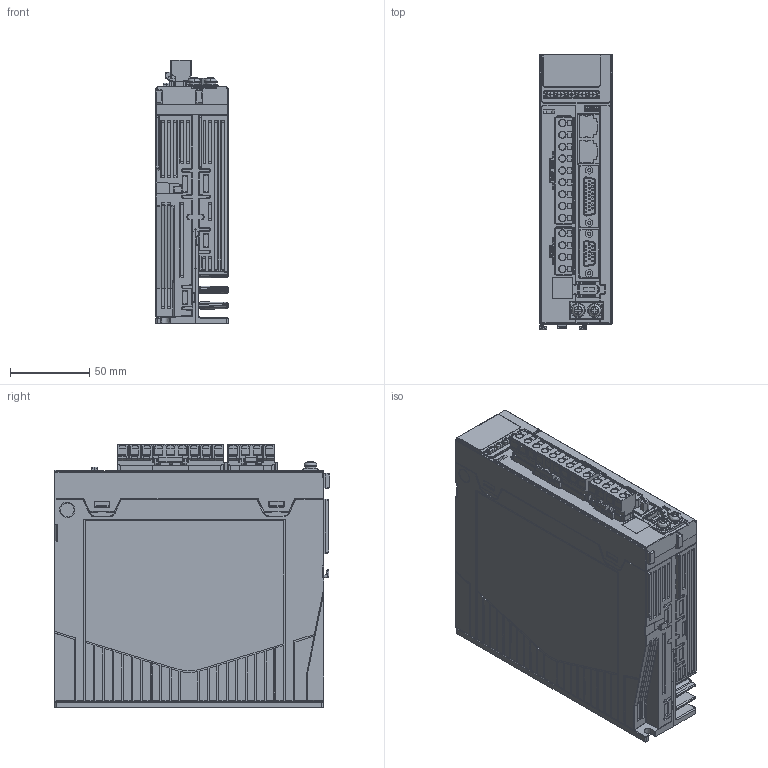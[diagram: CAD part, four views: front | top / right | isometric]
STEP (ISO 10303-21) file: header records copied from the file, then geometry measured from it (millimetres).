
FILE_DESCRIPTION((''),'2;1');
FILE_NAME('SV670N-INT-SIZE-A_ASM_1_ASM','2024-02-03T',('10009991'),(''),'CREO PARAMETRIC BY PTC INC, 2015290','CREO PARAMETRIC BY PTC INC, 2015290','');
FILE_SCHEMA(('AUTOMOTIVE_DESIGN { 1 0 10303 214 1 1 1 1 }'));
Products named in the file (6): SV670N-INT-SIZE-A_1; SV670N-INT-SIZE-A-A_ASM_1_ASM; 9EDGK-7_5-04P_20180409_6_1_1; 9EDGK-7_5-09P_20180409_6_1_1; DZ_ASM_5_ASM_1_ASM_1_ASM; SV670N-INT-SIZE-A_ASM_1_ASM
Assembly tree (5 placements, depth 3):
  SV670N-INT-SIZE-A_ASM_1_ASM
    SV670N-INT-SIZE-A-A_ASM_1_ASM
      SV670N-INT-SIZE-A_1
    DZ_ASM_5_ASM_1_ASM_1_ASM
      9EDGK-7_5-04P_20180409_6_1_1
      9EDGK-7_5-09P_20180409_6_1_1
Bounding box: 45.5 x 174.1 x 166.5 mm (x, y, z)
Volume: 22636.2 mm3; surface area: 121937.2 mm2
Topology: 5 solids, 7 shells, 5432 faces, 14542 edges, 9277 vertices
Faces by surface type: plane 3426, cylinder 1241, bspline 409, torus 137, cone 76, sphere 72, extrusion 71
Entity records: 250054 total; most frequent: CARTESIAN_POINT 76939, ORIENTED_EDGE 28894, DIRECTION 24857, EDGE_CURVE 14451, VECTOR 10503, LINE 10432, VERTEX_POINT 9277, PRESENTATION_STYLE_ASSIGNMENT 9208
